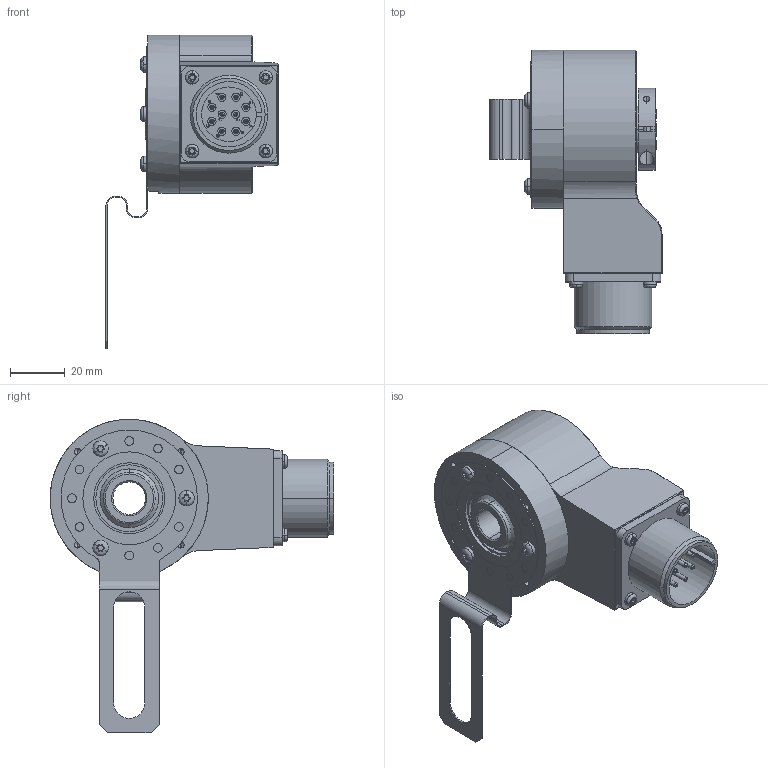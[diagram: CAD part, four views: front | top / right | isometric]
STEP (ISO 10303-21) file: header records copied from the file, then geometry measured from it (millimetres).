
FILE_DESCRIPTION (( 'STEP AP203' ), '1' );
FILE_NAME ('K58I.OXX.XXXXX.XC14512.6XRCJ.step', '2025-12-08T11:50:15', ( '' ), ( '' ), 'SwSTEP 2.0', 'SolidWorks 2021', '' );
FILE_SCHEMA (( 'CONFIG_CONTROL_DESIGN' ));
Length unit declared in the file: millimetre
Products named in the file (1): K58I.OXX.XXXXX.XC14512.6XRCJ
Bounding box: 63.09 x 104 x 115 mm (x, y, z)
Volume: 141971.4 mm3; surface area: 43780.7 mm2
Topology: 7 solids, 7 shells, 674 faces, 1693 edges, 1079 vertices
Faces by surface type: cylinder 301, plane 239, bspline 61, cone 47, torus 26
Entity records: 25578 total; most frequent: CARTESIAN_POINT 9431, ORIENTED_EDGE 3358, DIRECTION 3326, EDGE_CURVE 1679, AXIS2_PLACEMENT_3D 1253, VERTEX_POINT 1079, VECTOR 820, LINE 820
